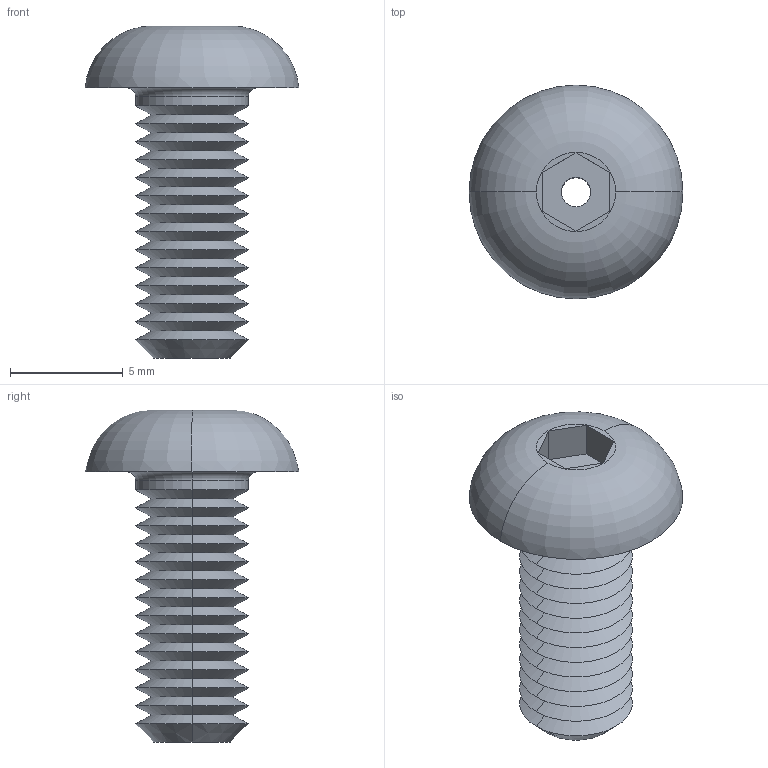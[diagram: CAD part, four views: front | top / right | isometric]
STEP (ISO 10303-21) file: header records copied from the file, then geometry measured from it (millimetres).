
FILE_DESCRIPTION (( 'STEP AP203' ), '1' );
FILE_NAME ('P0094.050-012-A2.step', '2019-07-12T16:53:42', ( '' ), ( '' ), 'SwSTEP 2.0', 'SolidWorks 2017', '' );
FILE_SCHEMA (( 'CONFIG_CONTROL_DESIGN' ));
Length unit declared in the file: millimetre
Products named in the file (1): P0094.050-012-A2
Bounding box: 9.5 x 9.5 x 14.75 mm (x, y, z)
Volume: 296.8 mm3; surface area: 545 mm2
Topology: 1 solids, 1 shells, 72 faces, 148 edges, 80 vertices
Faces by surface type: cone 54, plane 10, cylinder 4, torus 4
Entity records: 1937 total; most frequent: DIRECTION 366, CARTESIAN_POINT 301, ORIENTED_EDGE 296, EDGE_CURVE 148, AXIS2_PLACEMENT_3D 145, VERTEX_POINT 80, VECTOR 76, LINE 76
